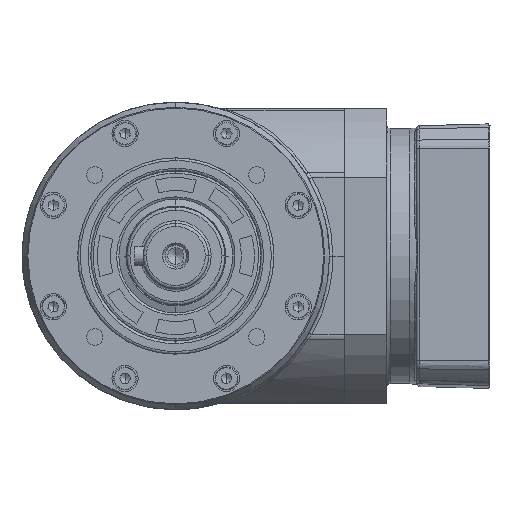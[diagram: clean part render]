
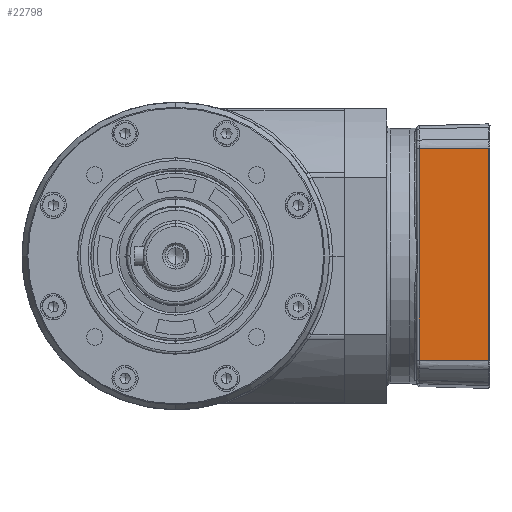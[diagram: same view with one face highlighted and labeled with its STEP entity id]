
A CAD part, left-side view. The second image highlights one B-rep face of the part: STEP entity #22798.
In plain terms, the highlighted planar face has unit normal (-1, 0.026, 0.013).
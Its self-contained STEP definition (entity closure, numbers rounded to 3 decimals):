
#230 = CARTESIAN_POINT ( 'NONE',  ( 25.771, -127.799, 86.047 ) ) ;
#1851 = B_SPLINE_CURVE_WITH_KNOTS ( 'NONE', 3,
 ( #26335, #230, #57524, #21222 ),
 .UNSPECIFIED., .F., .F.,
 ( 4, 4 ),
 ( 0., 1. ),
 .UNSPECIFIED. ) ;
#2547 = FACE_OUTER_BOUND ( 'NONE', #57437, .T. ) ;
#2854 = CARTESIAN_POINT ( 'NONE',  ( 25.586, -134.847, 85.975 ) ) ;
#3044 = CARTESIAN_POINT ( 'NONE',  ( 26.442, -134.88, 150.963 ) ) ;
#3237 = CARTESIAN_POINT ( 'NONE',  ( 25.576, -135.007, 85.585 ) ) ;
#4002 = B_SPLINE_CURVE_WITH_KNOTS ( 'NONE', 3,
 ( #3044, #13521, #54918, #20941 ),
 .UNSPECIFIED., .F., .F.,
 ( 4, 4 ),
 ( 0., 1. ),
 .UNSPECIFIED. ) ;
#4201 = ORIENTED_EDGE ( 'NONE', *, *, #11311, .T. ) ;
#8464 = VERTEX_POINT ( 'NONE', #28353 ) ;
#10636 = VERTEX_POINT ( 'NONE', #30849 ) ;
#11090 = CARTESIAN_POINT ( 'NONE',  ( 26.567, -113.727, 118.472 ) ) ;
#11311 = EDGE_CURVE ( 'NONE', #10636, #41043, #53464, .T. ) ;
#13521 = CARTESIAN_POINT ( 'NONE',  ( 26.626, -127.834, 150.892 ) ) ;
#14122 = CARTESIAN_POINT ( 'NONE',  ( 26.142, -113.711, 86.192 ) ) ;
#15004 = VECTOR ( 'NONE', #60137, 1000. ) ;
#17170 = DIRECTION ( 'NONE',  ( -0.013, 0.001, -1. ) ) ;
#17743 = LINE ( 'NONE', #2854, #15004 ) ;
#17773 = DIRECTION ( 'NONE',  ( 0.013, 0., 1. ) ) ;
#20941 = CARTESIAN_POINT ( 'NONE',  ( 26.993, -113.743, 150.752 ) ) ;
#21222 = CARTESIAN_POINT ( 'NONE',  ( 26.142, -113.711, 86.192 ) ) ;
#22419 = AXIS2_PLACEMENT_3D ( 'NONE', #3237, #23919, #17773 ) ;
#22444 = VERTEX_POINT ( 'NONE', #33218 ) ;
#22798 = ADVANCED_FACE ( 'NONE', ( #2547 ), #54434, .T. ) ;
#23919 = DIRECTION ( 'NONE',  ( -1., 0.026, 0.013 ) ) ;
#26335 = CARTESIAN_POINT ( 'NONE',  ( 25.586, -134.847, 85.975 ) ) ;
#28353 = CARTESIAN_POINT ( 'NONE',  ( 25.586, -134.847, 85.975 ) ) ;
#30849 = CARTESIAN_POINT ( 'NONE',  ( 26.993, -113.743, 150.752 ) ) ;
#33218 = CARTESIAN_POINT ( 'NONE',  ( 26.442, -134.88, 150.963 ) ) ;
#41043 = VERTEX_POINT ( 'NONE', #14122 ) ;
#48263 = ORIENTED_EDGE ( 'NONE', *, *, #61870, .F. ) ;
#50258 = EDGE_CURVE ( 'NONE', #8464, #22444, #17743, .T. ) ;
#52088 = EDGE_CURVE ( 'NONE', #22444, #10636, #4002, .T. ) ;
#53464 = LINE ( 'NONE', #11090, #54725 ) ;
#53625 = ORIENTED_EDGE ( 'NONE', *, *, #52088, .T. ) ;
#54434 = PLANE ( 'NONE',  #22419 ) ;
#54725 = VECTOR ( 'NONE', #17170, 1000. ) ;
#54918 = CARTESIAN_POINT ( 'NONE',  ( 26.809, -120.789, 150.822 ) ) ;
#57437 = EDGE_LOOP ( 'NONE', ( #53625, #4201, #48263, #63722 ) ) ;
#57524 = CARTESIAN_POINT ( 'NONE',  ( 25.957, -120.753, 86.12 ) ) ;
#60137 = DIRECTION ( 'NONE',  ( 0.013, -0.001, 1. ) ) ;
#61870 = EDGE_CURVE ( 'NONE', #8464, #41043, #1851, .T. ) ;
#63722 = ORIENTED_EDGE ( 'NONE', *, *, #50258, .T. ) ;
